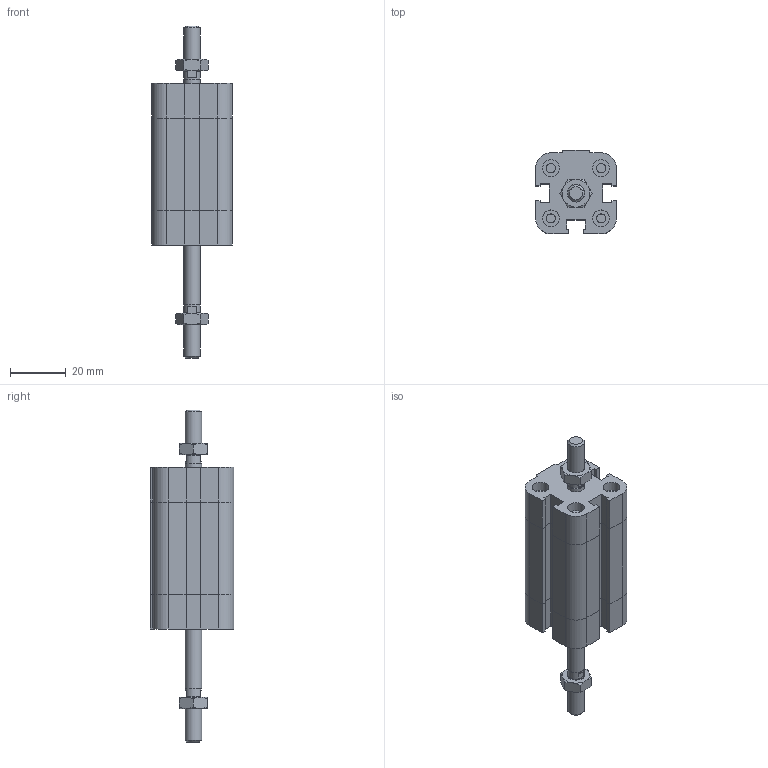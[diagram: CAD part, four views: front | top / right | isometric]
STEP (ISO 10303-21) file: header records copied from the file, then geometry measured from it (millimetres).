
FILE_DESCRIPTION((''),'2;1');
FILE_NAME('I:\Area Tecnica\Disegni\VARIE-3D\Componenti\EUROPE\15##_###_####_04_#\1581_12_0020_04_1.iam.stp','2009-04-20T14:49:12',(''),(''),'Autodesk Inventor 2009','Autodesk Inventor 2009','');
FILE_SCHEMA(('AUTOMOTIVE_DESIGN { 1 0 10303 214 1 1 1 1 }'));
Length unit declared in the file: millimetre
Products named in the file (4): 1581_12_0020_04_1; 1581_12_0020_03_1_C; 1561_12_0020_04_1_S; DBM6
Assembly tree (4 placements, depth 2):
  1581_12_0020_04_1
    1581_12_0020_03_1_C
    1561_12_0020_04_1_S
    DBM6  x2
Bounding box: 29 x 30 x 119 mm (x, y, z)
Volume: 42594.4 mm3; surface area: 15919 mm2
Topology: 4 solids, 4 shells, 224 faces, 491 edges, 293 vertices
Faces by surface type: plane 131, cone 35, bspline 33, cylinder 25
Full cylindrical faces by diameter (mm): 3.242 x4, 5 x1, 5.8 x2, 6 x6
Entity records: 5503 total; most frequent: CARTESIAN_POINT 1232, DIRECTION 814, ORIENTED_EDGE 784, EDGE_CURVE 392, AXIS2_PLACEMENT_3D 276, VECTOR 262, LINE 262, EDGE_LOOP 258
